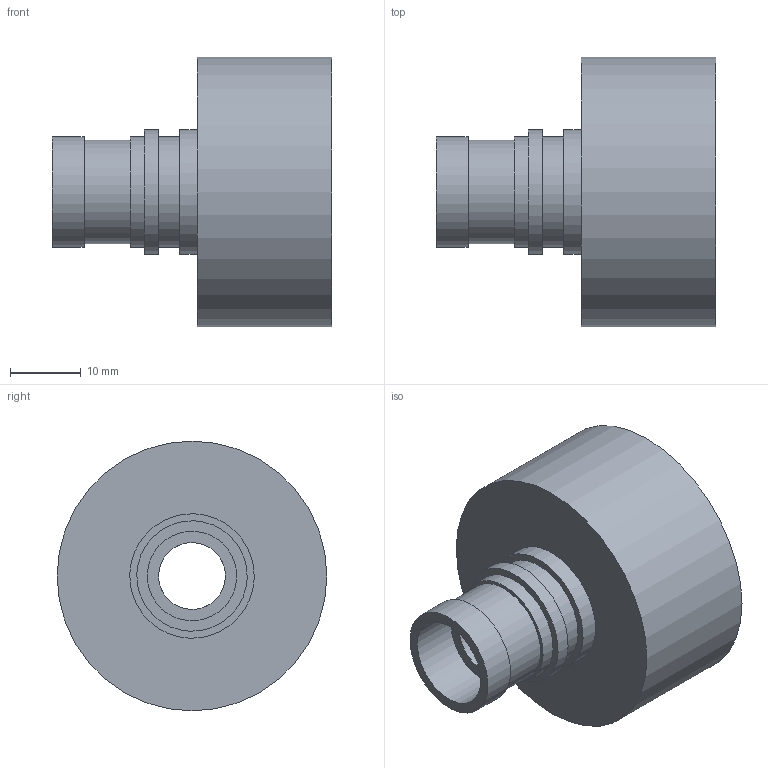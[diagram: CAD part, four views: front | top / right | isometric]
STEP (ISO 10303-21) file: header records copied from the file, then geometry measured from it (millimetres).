
FILE_DESCRIPTION (( 'STEP AP203' ), '1' );
FILE_NAME ('70-12.7R38.1-PH.STEP', '2013-08-29T08:44:47', ( '' ), ( '' ), 'SwSTEP 2.0', 'SolidWorks 2012', '' );
FILE_SCHEMA (( 'CONFIG_CONTROL_DESIGN' ));
Length unit declared in the file: millimetre
Products named in the file (3): 70-12.7R38.1-PH; 70-12.7T; 仩R38.1PH(25.4 31.8埲奜梡)
Assembly tree (2 placements, depth 2):
  70-12.7R38.1-PH
    仩R38.1PH(25.4 31.8埲奜梡)
    70-12.7T
Bounding box: 39.5 x 38.1 x 38.1 mm (x, y, z)
Volume: 12675.4 mm3; surface area: 7843.5 mm2
Topology: 2 solids, 2 shells, 23 faces, 39 edges, 26 vertices
Faces by surface type: cylinder 11, plane 10, cone 1, torus 1
Full cylindrical faces by diameter (mm): 9.45 x2, 12.65 x1, 14.65 x1, 15.6 x3, 17.6 x2, 33.7 x1, 38.1 x1
Entity records: 777 total; most frequent: DIRECTION 102, CARTESIAN_POINT 74, AXIS2_PLACEMENT_3D 51, EDGE_LOOP 46, ORIENTED_EDGE 46, FACE_OUTER_BOUND 35, PERSON_AND_ORGANIZATION 26, EDGE_CURVE 23
